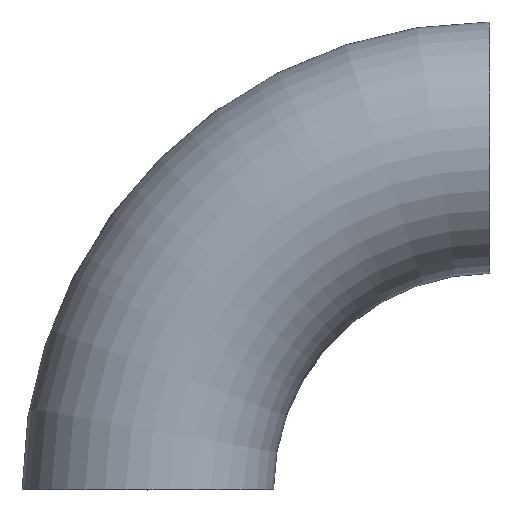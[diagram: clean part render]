
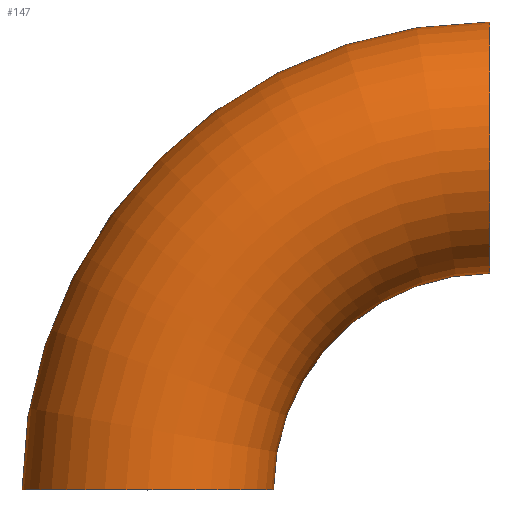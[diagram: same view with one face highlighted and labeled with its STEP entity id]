
A CAD part, top view. The second image highlights one B-rep face of the part: STEP entity #147.
In plain terms, the highlighted toroidal (fillet/blend) face has major radius 229 mm and minor radius 84.15 mm.
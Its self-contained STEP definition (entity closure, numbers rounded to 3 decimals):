
#4 = CARTESIAN_POINT ( 'NONE',  ( -84.15, 0., 0. ) ) ;
#8 = CARTESIAN_POINT ( 'NONE',  ( 0., 0., 0. ) ) ;
#15 = TOROIDAL_SURFACE ( 'NONE', #80, 229., 84.15 ) ;
#22 = VERTEX_POINT ( 'NONE', #4 ) ;
#31 = CARTESIAN_POINT ( 'NONE',  ( 229., 0., 0. ) ) ;
#34 = ORIENTED_EDGE ( 'NONE', *, *, #151, .T. ) ;
#48 = DIRECTION ( 'NONE',  ( 0., 0., 1. ) ) ;
#53 = DIRECTION ( 'NONE',  ( 0., 0., 1. ) ) ;
#57 = AXIS2_PLACEMENT_3D ( 'NONE', #8, #166, #122 ) ;
#61 = EDGE_LOOP ( 'NONE', ( #216, #253, #34, #233 ) ) ;
#65 = CARTESIAN_POINT ( 'NONE',  ( 229., 313.15, 0. ) ) ;
#68 = CARTESIAN_POINT ( 'NONE',  ( 229., 0., 0. ) ) ;
#80 = AXIS2_PLACEMENT_3D ( 'NONE', #68, #48, #223 ) ;
#92 = CARTESIAN_POINT ( 'NONE',  ( 229., 0., 0. ) ) ;
#103 = VERTEX_POINT ( 'NONE', #65 ) ;
#104 = DIRECTION ( 'NONE',  ( 0., 0., 1. ) ) ;
#121 = CIRCLE ( 'NONE', #176, 84.15 ) ;
#122 = DIRECTION ( 'NONE',  ( 0., 0., 1. ) ) ;
#126 = VERTEX_POINT ( 'NONE', #127 ) ;
#127 = CARTESIAN_POINT ( 'NONE',  ( 84.15, 0., 0. ) ) ;
#140 = CARTESIAN_POINT ( 'NONE',  ( 229., 144.85, 0. ) ) ;
#147 = ADVANCED_FACE ( 'NONE', ( #156 ), #15, .T. ) ;
#151 = EDGE_CURVE ( 'NONE', #22, #126, #162, .T. ) ;
#156 = FACE_OUTER_BOUND ( 'NONE', #61, .T. ) ;
#162 = CIRCLE ( 'NONE', #57, 84.15 ) ;
#163 = DIRECTION ( 'NONE',  ( 0., 0., 1. ) ) ;
#166 = DIRECTION ( 'NONE',  ( 0., 1., 0. ) ) ;
#176 = AXIS2_PLACEMENT_3D ( 'NONE', #201, #245, #104 ) ;
#191 = VERTEX_POINT ( 'NONE', #140 ) ;
#195 = CIRCLE ( 'NONE', #204, 313.15 ) ;
#199 = DIRECTION ( 'NONE',  ( 1., 0., 0. ) ) ;
#201 = CARTESIAN_POINT ( 'NONE',  ( 229., 229., 0. ) ) ;
#204 = AXIS2_PLACEMENT_3D ( 'NONE', #31, #163, #199 ) ;
#206 = EDGE_CURVE ( 'NONE', #103, #191, #121, .T. ) ;
#210 = CIRCLE ( 'NONE', #228, 144.85 ) ;
#216 = ORIENTED_EDGE ( 'NONE', *, *, #206, .F. ) ;
#223 = DIRECTION ( 'NONE',  ( 1., 0., 0. ) ) ;
#228 = AXIS2_PLACEMENT_3D ( 'NONE', #92, #53, #250 ) ;
#233 = ORIENTED_EDGE ( 'NONE', *, *, #247, .F. ) ;
#234 = EDGE_CURVE ( 'NONE', #103, #22, #195, .T. ) ;
#245 = DIRECTION ( 'NONE',  ( 1., 0., 0. ) ) ;
#247 = EDGE_CURVE ( 'NONE', #191, #126, #210, .T. ) ;
#250 = DIRECTION ( 'NONE',  ( 1., 0., 0. ) ) ;
#253 = ORIENTED_EDGE ( 'NONE', *, *, #234, .T. ) ;
